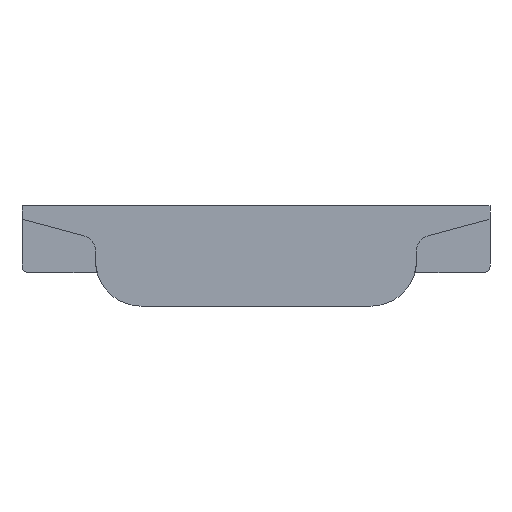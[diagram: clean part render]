
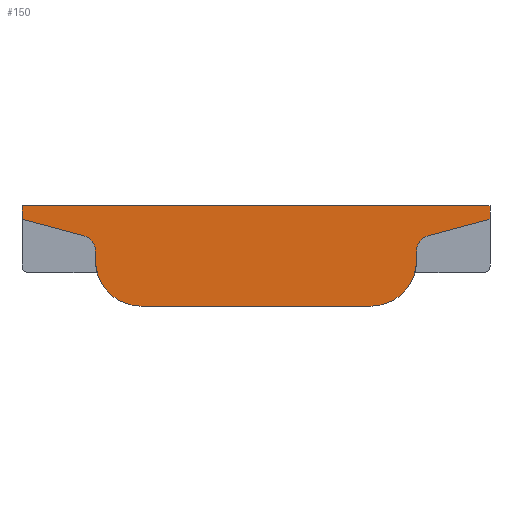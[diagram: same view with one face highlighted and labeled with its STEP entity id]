
A CAD part, front view. The second image highlights one B-rep face of the part: STEP entity #150.
In plain terms, the highlighted planar face has unit normal (0, -1, 0).
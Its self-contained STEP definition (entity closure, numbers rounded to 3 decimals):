
#150 = ADVANCED_FACE( '', ( #347 ), #348, .T. );
#347 = FACE_OUTER_BOUND( '', #588, .T. );
#348 = PLANE( '', #589 );
#588 = EDGE_LOOP( '', ( #983, #984, #985, #986, #987, #988, #989, #990, #991, #992, #993, #994 ) );
#589 = AXIS2_PLACEMENT_3D( '', #995, #996, #997 );
#983 = ORIENTED_EDGE( '', *, *, #1608, .T. );
#984 = ORIENTED_EDGE( '', *, *, #1609, .T. );
#985 = ORIENTED_EDGE( '', *, *, #1610, .T. );
#986 = ORIENTED_EDGE( '', *, *, #1611, .T. );
#987 = ORIENTED_EDGE( '', *, *, #1564, .T. );
#988 = ORIENTED_EDGE( '', *, *, #1480, .T. );
#989 = ORIENTED_EDGE( '', *, *, #1552, .T. );
#990 = ORIENTED_EDGE( '', *, *, #1612, .T. );
#991 = ORIENTED_EDGE( '', *, *, #1613, .T. );
#992 = ORIENTED_EDGE( '', *, *, #1614, .T. );
#993 = ORIENTED_EDGE( '', *, *, #1615, .T. );
#994 = ORIENTED_EDGE( '', *, *, #1616, .T. );
#995 = CARTESIAN_POINT( '', ( -8.6, -30.35, 3.4 ) );
#996 = DIRECTION( '', ( 0., -1., 0. ) );
#997 = DIRECTION( '', ( 0., 0., -1. ) );
#1480 = EDGE_CURVE( '', #1776, #1774, #1777, .T. );
#1552 = EDGE_CURVE( '', #1774, #1897, #1899, .T. );
#1564 = EDGE_CURVE( '', #1914, #1776, #1918, .T. );
#1608 = EDGE_CURVE( '', #1986, #1987, #1988, .T. );
#1609 = EDGE_CURVE( '', #1987, #1989, #1990, .T. );
#1610 = EDGE_CURVE( '', #1989, #1991, #1992, .T. );
#1611 = EDGE_CURVE( '', #1991, #1914, #1993, .T. );
#1612 = EDGE_CURVE( '', #1897, #1994, #1995, .T. );
#1613 = EDGE_CURVE( '', #1994, #1996, #1997, .T. );
#1614 = EDGE_CURVE( '', #1996, #1998, #1999, .T. );
#1615 = EDGE_CURVE( '', #1998, #2000, #2001, .T. );
#1616 = EDGE_CURVE( '', #2000, #1986, #2002, .T. );
#1774 = VERTEX_POINT( '', #2205 );
#1776 = VERTEX_POINT( '', #2208 );
#1777 = CIRCLE( '', #2209, 3.4 );
#1897 = VERTEX_POINT( '', #2370 );
#1899 = LINE( '', #2373, #2374 );
#1914 = VERTEX_POINT( '', #2392 );
#1918 = LINE( '', #2398, #2399 );
#1986 = VERTEX_POINT( '', #2492 );
#1987 = VERTEX_POINT( '', #2493 );
#1988 = LINE( '', #2494, #2495 );
#1989 = VERTEX_POINT( '', #2496 );
#1990 = LINE( '', #2497, #2498 );
#1991 = VERTEX_POINT( '', #2499 );
#1992 = LINE( '', #2500, #2501 );
#1993 = CIRCLE( '', #2502, 1.2 );
#1994 = VERTEX_POINT( '', #2503 );
#1995 = CIRCLE( '', #2504, 3.4 );
#1996 = VERTEX_POINT( '', #2505 );
#1997 = LINE( '', #2506, #2507 );
#1998 = VERTEX_POINT( '', #2508 );
#1999 = CIRCLE( '', #2509, 1.2 );
#2000 = VERTEX_POINT( '', #2510 );
#2001 = LINE( '', #2511, #2512 );
#2002 = LINE( '', #2513, #2514 );
#2205 = CARTESIAN_POINT( '', ( -8.6, -30.35, 0. ) );
#2208 = CARTESIAN_POINT( '', ( -12., -30.35, 3.4 ) );
#2209 = AXIS2_PLACEMENT_3D( '', #2781, #2782, #2783 );
#2370 = CARTESIAN_POINT( '', ( 8.6, -30.35, 0. ) );
#2373 = CARTESIAN_POINT( '', ( -8.6, -30.35, 0. ) );
#2374 = VECTOR( '', #2877, 1000. );
#2392 = CARTESIAN_POINT( '', ( -12., -30.35, 4.105 ) );
#2398 = CARTESIAN_POINT( '', ( -12., -30.35, 4.105 ) );
#2399 = VECTOR( '', #2895, 1000. );
#2492 = CARTESIAN_POINT( '', ( 17.5, -30.35, 7.5 ) );
#2493 = CARTESIAN_POINT( '', ( -17.5, -30.35, 7.5 ) );
#2494 = CARTESIAN_POINT( '', ( 13.2, -30.35, 7.5 ) );
#2495 = VECTOR( '', #2942, 1000. );
#2496 = CARTESIAN_POINT( '', ( -17.5, -30.35, 6.5 ) );
#2497 = CARTESIAN_POINT( '', ( -17.5, -30.35, 7.5 ) );
#2498 = VECTOR( '', #2943, 1000. );
#2499 = CARTESIAN_POINT( '', ( -12.889, -30.35, 5.265 ) );
#2500 = CARTESIAN_POINT( '', ( -17.5, -30.35, 6.5 ) );
#2501 = VECTOR( '', #2944, 1000. );
#2502 = AXIS2_PLACEMENT_3D( '', #2945, #2946, #2947 );
#2503 = CARTESIAN_POINT( '', ( 12., -30.35, 3.4 ) );
#2504 = AXIS2_PLACEMENT_3D( '', #2948, #2949, #2950 );
#2505 = CARTESIAN_POINT( '', ( 12., -30.35, 4.105 ) );
#2506 = CARTESIAN_POINT( '', ( 12., -30.35, 4.105 ) );
#2507 = VECTOR( '', #2951, 1000. );
#2508 = CARTESIAN_POINT( '', ( 12.889, -30.35, 5.265 ) );
#2509 = AXIS2_PLACEMENT_3D( '', #2952, #2953, #2954 );
#2510 = CARTESIAN_POINT( '', ( 17.5, -30.35, 6.5 ) );
#2511 = CARTESIAN_POINT( '', ( 17.5, -30.35, 6.5 ) );
#2512 = VECTOR( '', #2955, 1000. );
#2513 = CARTESIAN_POINT( '', ( 17.5, -30.35, 7.5 ) );
#2514 = VECTOR( '', #2956, 1000. );
#2781 = CARTESIAN_POINT( '', ( -8.6, -30.35, 3.4 ) );
#2782 = DIRECTION( '', ( 0., -1., 0. ) );
#2783 = DIRECTION( '', ( 1., 0., 0. ) );
#2877 = DIRECTION( '', ( 1., 0., 0. ) );
#2895 = DIRECTION( '', ( 0., 0., -1. ) );
#2942 = DIRECTION( '', ( -1., 0., 0. ) );
#2943 = DIRECTION( '', ( 0., 0., -1. ) );
#2944 = DIRECTION( '', ( 0.966, 0., -0.259 ) );
#2945 = CARTESIAN_POINT( '', ( -13.2, -30.35, 4.105 ) );
#2946 = DIRECTION( '', ( 0., 1., 0. ) );
#2947 = DIRECTION( '', ( -1., 0., 0. ) );
#2948 = CARTESIAN_POINT( '', ( 8.6, -30.35, 3.4 ) );
#2949 = DIRECTION( '', ( 0., -1., 0. ) );
#2950 = DIRECTION( '', ( -1., 0., 0. ) );
#2951 = DIRECTION( '', ( 0., 0., 1. ) );
#2952 = CARTESIAN_POINT( '', ( 13.2, -30.35, 4.105 ) );
#2953 = DIRECTION( '', ( 0., 1., 0. ) );
#2954 = DIRECTION( '', ( 1., 0., 0. ) );
#2955 = DIRECTION( '', ( 0.966, 0., 0.259 ) );
#2956 = DIRECTION( '', ( 0., 0., 1. ) );
